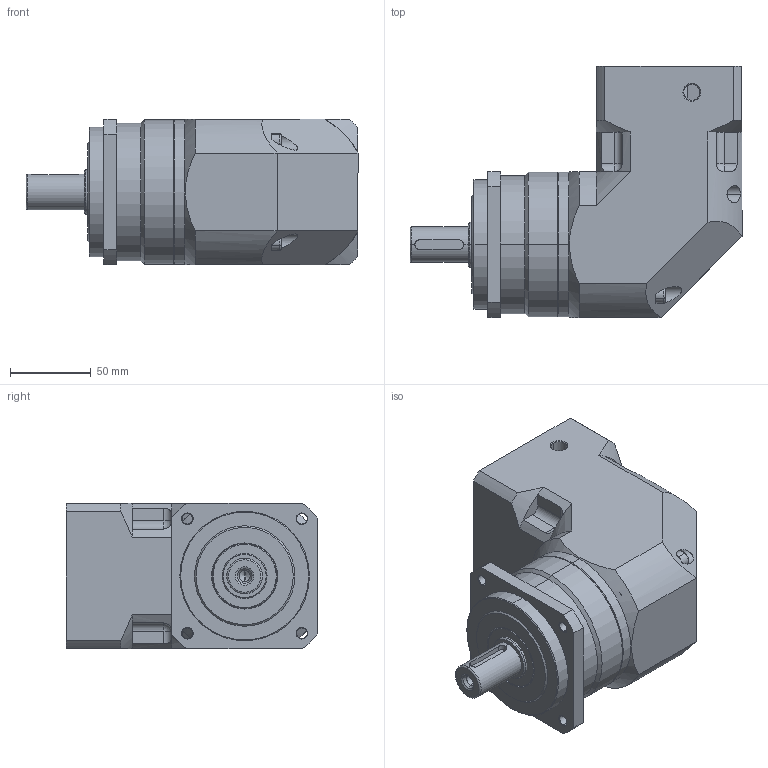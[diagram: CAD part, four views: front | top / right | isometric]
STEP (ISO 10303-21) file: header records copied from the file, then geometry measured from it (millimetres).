
FILE_DESCRIPTION (( 'STEP AP214' ), '1' );
FILE_NAME ('TVBR-090-L1-19-70-90-M5.STEP', '2023-12-14T02:30:00', ( '' ), ( '' ), 'SwSTEP 2.0', 'SolidWorks 2016', '' );
FILE_SCHEMA (( 'AUTOMOTIVE_DESIGN' ));
Length unit declared in the file: millimetre
Products named in the file (1): TVBR-090-L1-19-70-90-M5
Bounding box: 205 x 155 x 90 mm (x, y, z)
Volume: 1421266.5 mm3; surface area: 160679.6 mm2
Topology: 8 solids, 27 shells, 831 faces, 1949 edges, 1184 vertices
Faces by surface type: plane 340, cylinder 284, cone 142, bspline 39, torus 22, sphere 4
Entity records: 35085 total; most frequent: CARTESIAN_POINT 6973, DIRECTION 4092, ORIENTED_EDGE 3750, EDGE_CURVE 1875, AXIS2_PLACEMENT_3D 1571, VERTEX_POINT 1184, VECTOR 950, LINE 950
